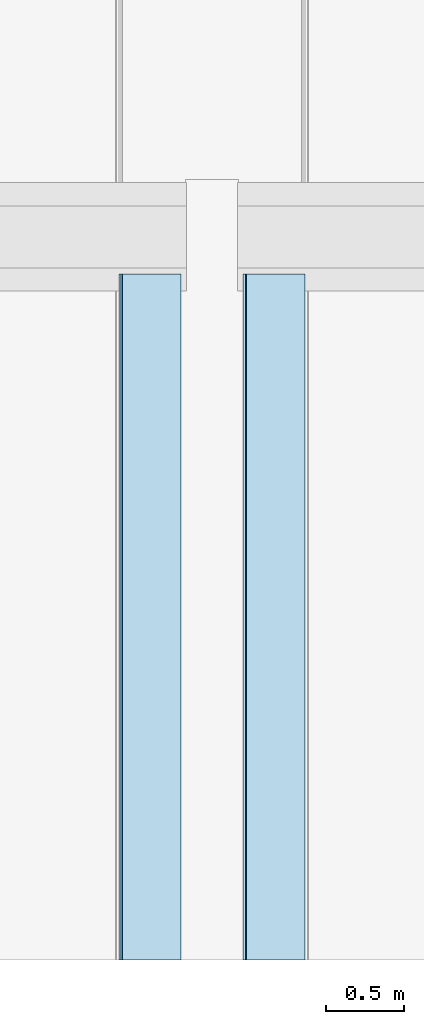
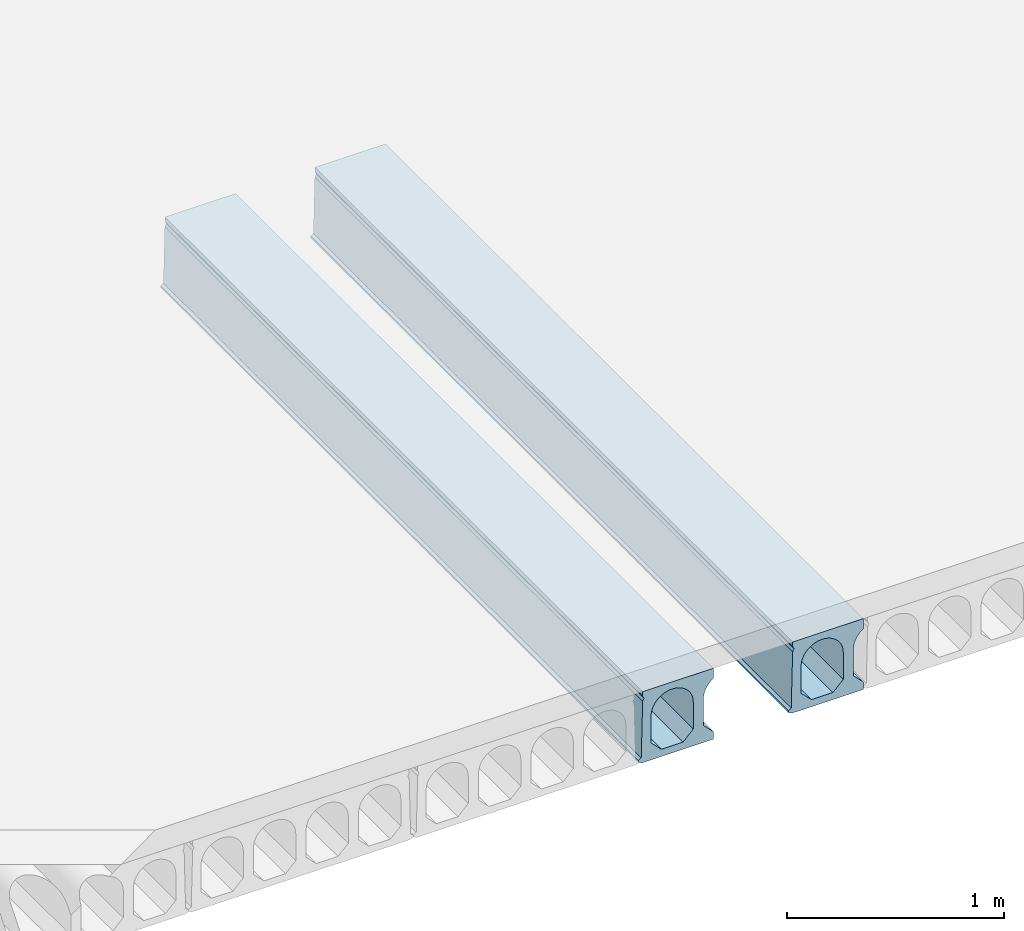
# One storey, part 43 of 98: 2 slabs.
"""IFC2X3 building model written with IfcOpenShell, lengths in millimetres."""

from ifc_helpers import new_model, entity, si_unit, converted_unit, derived_unit, direction, frame, origin_with_axes, place, context, subcontext, project, spatial, faceted_brep, type_object, element, save


model = new_model("IFC2X3")

# Units and contexts
model_context = context("Model", 3, precision=0.01, world=frame((0.0, 4.29681676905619e-09, 0.0)), true_north=direction((4.01073788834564e-13, 1.0)))
plan_context = context("Plan", 3, precision=0.01, world=frame((0.0, 4.29681676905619e-09, 0.0)), true_north=direction((4.01073788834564e-13, 1.0)))
body_context = subcontext(model_context, "Body", "Model", "MODEL_VIEW")
ifc_project = project(units=[converted_unit("PLANEANGLEUNIT", "DEGREE", entity("IfcPositiveLengthMeasure", 0.0174532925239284), si_unit("PLANEANGLEUNIT", "RADIAN"), dimensions=[0, 0, 0, 0, 0, 0, 0]), si_unit("AREAUNIT", "SQUARE_METRE"), si_unit("LENGTHUNIT", "METRE", prefix="MILLI"), si_unit("MASSUNIT", "GRAM", prefix="KILO"), si_unit("POWERUNIT", "WATT"), si_unit("PRESSUREUNIT", "PASCAL"), si_unit("FORCEUNIT", "NEWTON", prefix="KILO"), si_unit("ELECTRICCURRENTUNIT", "AMPERE"), si_unit("THERMODYNAMICTEMPERATUREUNIT", "DEGREE_CELSIUS"), si_unit("TIMEUNIT", "SECOND"), si_unit("VOLUMEUNIT", "CUBIC_METRE"), derived_unit("LINEARVELOCITYUNIT", [(si_unit("LENGTHUNIT", "METRE"), 1), (si_unit("TIMEUNIT", "SECOND"), -1)]), derived_unit("VOLUMETRICFLOWRATEUNIT", [(si_unit("VOLUMEUNIT", "CUBIC_METRE"), 1), (si_unit("TIMEUNIT", "SECOND"), -1)]), derived_unit("THERMALTRANSMITTANCEUNIT", [(si_unit("POWERUNIT", "WATT"), 1), (si_unit("THERMODYNAMICTEMPERATUREUNIT", "KELVIN"), -1), (si_unit("AREAUNIT", "SQUARE_METRE"), -1)])], contexts=[model_context, plan_context])

# Site, building, storey
site_placement = place(None, frame((0.0, -4.29681676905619e-09, 0.0), z_axis=(0.0, 0.0, 1.0), x_axis=(1.0, 0.0, 0.0)))
site = spatial("IfcSite", under=ifc_project, at=site_placement, Name="Gardermoen", CompositionType="ELEMENT")
building_placement = place(site_placement, frame((0.0, 4.29681676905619e-09, 0.0), z_axis=(0.0, 0.0, 1.0), x_axis=(1.0, 0.0, 0.0)))
building = spatial("IfcBuilding", under=site, at=building_placement, Name="TS", CompositionType="ELEMENT")
storey_placement = place(building_placement, origin_with_axes())
storey = spatial("IfcBuildingStorey", under=building, at=storey_placement, Name="D", CompositionType="ELEMENT", Elevation=0.0)

# Slabs
slab_type = type_object("IfcSlabType", Name="HD400", PredefinedType="NOTDEFINED")
slab_1_placement = place(storey_placement, frame((520799.999766, 396739.995625, 203600.0), z_axis=(0.0, 0.0, 1.0), x_axis=(0.0, 1.0, 0.0)))
element("IfcSlab", 1, at=slab_1_placement, inside=storey, type_object=slab_type, Name="HULLDEKKE", ObjectType="HD400", PredefinedType="FLOOR", context=body_context, shape_type="Brep", body=[
    faceted_brep([(4105.68103395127, 201.531667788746, 141.681228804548), (4105.68103395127, 200.001300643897, 142.59312968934), (8520.0, 200.001300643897, 142.59312968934), (8520.0, 201.531667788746, 141.681228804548), (4105.68103395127, 209.098930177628, 136.278307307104), (8520.0, 209.098930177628, 136.278307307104), (4105.68103395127, 216.194176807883, 130.268939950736), (8520.0, 216.194176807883, 130.268939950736), (4105.68103395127, 222.768939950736, 123.694176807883), (8520.0, 222.768939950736, 123.694176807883), (4105.68103395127, 228.778307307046, 116.598930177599), (8520.0, 228.778307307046, 116.598930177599), (4105.68103395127, 234.181228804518, 109.031667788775), (8520.0, 234.181228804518, 109.031667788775), (4105.68103395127, 238.940797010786, 101.044081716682), (8520.0, 238.940797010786, 101.044081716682), (4105.68103395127, 243.024499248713, 92.6907352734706), (8520.0, 243.024499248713, 92.6907352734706), (4105.68103395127, 246.404439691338, 84.028690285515), (8520.0, 246.404439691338, 84.028690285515), (4105.68103395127, 249.057529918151, 75.1171173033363), (8520.0, 249.057529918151, 75.1171173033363), (4105.68103395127, 250.965646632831, 66.0168914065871), (8520.0, 250.965646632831, 66.0168914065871), (4105.68103395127, 252.115755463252, 56.7901763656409), (8520.0, 252.115755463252, 56.7901763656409), (4105.68103395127, 252.5, 47.5), (8520.0, 252.5, 47.5), (4105.68103395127, 252.5, -105.0), (8520.0, 252.5, -105.0), (4105.68103395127, 200.001300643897, -157.498699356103), (8520.0, 200.001300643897, -157.498699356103), (4105.68103395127, 200.001300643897, -200.0), (8520.0, 200.001300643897, -200.0), (4105.68103395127, 583.380004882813, -200.0), (8520.0, 583.380004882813, -200.0), (4105.68103395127, 600.0, -190.0), (8520.0, 600.0, -190.0), (4105.68103395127, 600.0, -180.0), (8520.0, 600.0, -180.0), (4105.68103395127, 585.0, -170.0), (8520.0, 585.0, -170.0), (4105.68103395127, 577.5, 145.0), (8520.0, 577.5, 145.0), (4105.68103395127, 570.0, 160.0), (8520.0, 570.0, 160.0), (4105.68103395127, 577.5, 175.0), (8520.0, 577.5, 175.0), (4105.68103395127, 577.5, 200.0), (8520.0, 577.5, 200.0), (4105.68103395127, 307.5, -105.0), (4105.68103395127, 362.5, -160.0), (8520.0, 362.5, -160.0), (8520.0, 307.5, -105.0), (4105.68103395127, 307.5, 47.5), (8520.0, 307.5, 47.5), (4105.68103395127, 307.884244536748, 56.7901763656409), (8520.0, 307.884244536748, 56.7901763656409), (4105.68103395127, 309.034353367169, 66.0168914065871), (8520.0, 309.034353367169, 66.0168914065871), (4105.68103395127, 310.942470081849, 75.1171173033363), (8520.0, 310.942470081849, 75.1171173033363), (4105.68103395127, 313.595560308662, 84.028690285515), (8520.0, 313.595560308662, 84.028690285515), (4105.68103395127, 316.975500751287, 92.6907352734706), (8520.0, 316.975500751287, 92.6907352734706), (4105.68103395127, 321.059202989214, 101.044081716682), (8520.0, 321.059202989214, 101.044081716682), (4105.68103395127, 325.818771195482, 109.031667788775), (8520.0, 325.818771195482, 109.031667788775), (4105.68103395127, 331.221692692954, 116.598930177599), (8520.0, 331.221692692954, 116.598930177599), (4105.68103395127, 337.231060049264, 123.694176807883), (8520.0, 337.231060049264, 123.694176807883), (4105.68103395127, 343.805823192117, 130.268939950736), (8520.0, 343.805823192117, 130.268939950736), (4105.68103395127, 350.901069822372, 136.278307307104), (8520.0, 350.901069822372, 136.278307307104), (4105.68103395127, 358.468332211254, 141.681228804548), (8520.0, 358.468332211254, 141.681228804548), (4105.68103395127, 366.455918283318, 146.440797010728), (8520.0, 366.455918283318, 146.440797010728), (4105.68103395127, 374.809264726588, 150.524499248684), (8520.0, 374.809264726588, 150.524499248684), (4105.68103395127, 383.471309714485, 153.904439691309), (8520.0, 383.471309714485, 153.904439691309), (4105.68103395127, 392.382882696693, 156.55752991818), (8520.0, 392.382882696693, 156.55752991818), (4105.68103395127, 401.483108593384, 158.465646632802), (8520.0, 401.483108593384, 158.465646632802), (4105.68103395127, 410.709823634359, 159.615755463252), (8520.0, 410.709823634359, 159.615755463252), (4105.68103395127, 420.0, 160.0), (8520.0, 420.0, 160.0), (4105.68103395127, 429.290176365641, 159.615755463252), (8520.0, 429.290176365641, 159.615755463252), (4105.68103395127, 438.516891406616, 158.465646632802), (8520.0, 438.516891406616, 158.465646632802), (4105.68103395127, 447.617117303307, 156.55752991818), (8520.0, 447.617117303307, 156.55752991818), (4105.68103395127, 456.528690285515, 153.904439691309), (8520.0, 456.528690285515, 153.904439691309), (4105.68103395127, 465.190735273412, 150.524499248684), (8520.0, 465.190735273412, 150.524499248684), (4105.68103395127, 473.544081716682, 146.440797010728), (8520.0, 473.544081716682, 146.440797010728), (4105.68103395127, 481.531667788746, 141.681228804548), (8520.0, 481.531667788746, 141.681228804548), (4105.68103395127, 489.098930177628, 136.278307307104), (8520.0, 489.098930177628, 136.278307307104), (4105.68103395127, 496.194176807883, 130.268939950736), (8520.0, 496.194176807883, 130.268939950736), (4105.68103395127, 502.768939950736, 123.694176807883), (8520.0, 502.768939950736, 123.694176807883), (4105.68103395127, 508.778307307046, 116.598930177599), (8520.0, 508.778307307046, 116.598930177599), (4105.68103395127, 514.181228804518, 109.031667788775), (8520.0, 514.181228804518, 109.031667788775), (4105.68103395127, 518.940797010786, 101.044081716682), (8520.0, 518.940797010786, 101.044081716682), (4105.68103395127, 523.024499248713, 92.6907352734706), (8520.0, 523.024499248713, 92.6907352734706), (4105.68103395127, 526.404439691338, 84.028690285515), (8520.0, 526.404439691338, 84.028690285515), (4105.68103395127, 529.057529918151, 75.1171173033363), (8520.0, 529.057529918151, 75.1171173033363), (4105.68103395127, 530.965646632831, 66.0168914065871), (8520.0, 530.965646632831, 66.0168914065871), (4105.68103395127, 532.115755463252, 56.7901763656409), (8520.0, 532.115755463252, 56.7901763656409), (4105.68103395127, 532.5, 47.5), (8520.0, 532.5, 47.5), (4105.68103395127, 532.5, -105.0), (8520.0, 532.5, -105.0), (4105.68103395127, 477.5, -160.0), (8520.0, 477.5, -160.0), (8520.0, 200.001300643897, 200.0), (4105.68103395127, 200.001300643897, 200.0)], [[[0, 1, 2, 3]], [[4, 0, 3, 5]], [[6, 4, 5, 7]], [[8, 6, 7, 9]], [[10, 8, 9, 11]], [[12, 10, 11, 13]], [[14, 12, 13, 15]], [[16, 14, 15, 17]], [[18, 16, 17, 19]], [[20, 18, 19, 21]], [[22, 20, 21, 23]], [[24, 22, 23, 25]], [[26, 24, 25, 27]], [[28, 26, 27, 29]], [[30, 28, 29, 31]], [[32, 30, 31, 33]], [[34, 32, 33, 35]], [[36, 34, 35, 37]], [[38, 36, 37, 39]], [[40, 38, 39, 41]], [[42, 40, 41, 43]], [[44, 42, 43, 45]], [[46, 44, 45, 47]], [[48, 46, 47, 49]], [[50, 51, 52, 53]], [[54, 50, 53, 55]], [[56, 54, 55, 57]], [[58, 56, 57, 59]], [[60, 58, 59, 61]], [[62, 60, 61, 63]], [[64, 62, 63, 65]], [[66, 64, 65, 67]], [[68, 66, 67, 69]], [[70, 68, 69, 71]], [[72, 70, 71, 73]], [[74, 72, 73, 75]], [[76, 74, 75, 77]], [[78, 76, 77, 79]], [[80, 78, 79, 81]], [[82, 80, 81, 83]], [[84, 82, 83, 85]], [[86, 84, 85, 87]], [[88, 86, 87, 89]], [[90, 88, 89, 91]], [[92, 90, 91, 93]], [[94, 92, 93, 95]], [[96, 94, 95, 97]], [[98, 96, 97, 99]], [[100, 98, 99, 101]], [[102, 100, 101, 103]], [[104, 102, 103, 105]], [[106, 104, 105, 107]], [[108, 106, 107, 109]], [[110, 108, 109, 111]], [[112, 110, 111, 113]], [[114, 112, 113, 115]], [[116, 114, 115, 117]], [[118, 116, 117, 119]], [[120, 118, 119, 121]], [[122, 120, 121, 123]], [[124, 122, 123, 125]], [[126, 124, 125, 127]], [[128, 126, 127, 129]], [[130, 128, 129, 131]], [[132, 130, 131, 133]], [[134, 132, 133, 135]], [[2, 136, 49, 47, 45, 43, 41, 39, 37, 35, 33, 31, 29, 27, 25, 23, 21, 19, 17, 15, 13, 11, 9, 7, 5, 3], [52, 135, 133, 131, 129, 127, 125, 123, 121, 119, 117, 115, 113, 111, 109, 107, 105, 103, 101, 99, 97, 95, 93, 91, 89, 87, 85, 83, 81, 79, 77, 75, 73, 71, 69, 67, 65, 63, 61, 59, 57, 55, 53]], [[51, 134, 135, 52]], [[137, 48, 49, 136]], [[1, 137, 136, 2]], [[4, 6, 8, 10, 12, 14, 16, 18, 20, 22, 24, 26, 28, 30, 32, 34, 36, 38, 40, 42, 44, 46, 48, 137, 1, 0], [54, 56, 58, 60, 62, 64, 66, 68, 70, 72, 74, 76, 78, 80, 82, 84, 86, 88, 90, 92, 94, 96, 98, 100, 102, 104, 106, 108, 110, 112, 114, 116, 118, 120, 122, 124, 126, 128, 130, 132, 134, 51, 50]]], orient=[[False], [False], [False], [False], [False], [False], [False], [False], [False], [False], [False], [False], [False], [False], [False], [False], [False], [False], [False], [False], [False], [False], [False], [False], [False], [False], [False], [False], [False], [False], [False], [False], [False], [False], [False], [False], [False], [False], [False], [False], [False], [False], [False], [False], [False], [False], [False], [False], [False], [False], [False], [False], [False], [False], [False], [False], [False], [False], [False], [False], [False], [False], [False], [False], [False], [False], [False, False], [False], [False], [False], [False, False]]),
])
slab_2_placement = place(storey_placement, frame((519999.999766, 396739.995625, 203600.0), z_axis=(0.0, 0.0, 1.0), x_axis=(0.0, 1.0, 0.0)))
element("IfcSlab", 2, at=slab_2_placement, inside=storey, type_object=slab_type, Name="HULLDEKKE", ObjectType="HD400", PredefinedType="FLOOR", context=body_context, shape_type="Brep", body=[
    faceted_brep([(4105.68103395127, 201.531667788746, 141.681228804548), (4105.68103395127, 200.001300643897, 142.59312968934), (8520.0, 200.001300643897, 142.59312968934), (8520.0, 201.531667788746, 141.681228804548), (4105.68103395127, 209.098930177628, 136.278307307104), (8520.0, 209.098930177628, 136.278307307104), (4105.68103395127, 216.194176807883, 130.268939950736), (8520.0, 216.194176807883, 130.268939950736), (4105.68103395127, 222.768939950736, 123.694176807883), (8520.0, 222.768939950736, 123.694176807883), (4105.68103395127, 228.778307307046, 116.598930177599), (8520.0, 228.778307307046, 116.598930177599), (4105.68103395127, 234.181228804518, 109.031667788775), (8520.0, 234.181228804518, 109.031667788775), (4105.68103395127, 238.940797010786, 101.044081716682), (8520.0, 238.940797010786, 101.044081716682), (4105.68103395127, 243.024499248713, 92.6907352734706), (8520.0, 243.024499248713, 92.6907352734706), (4105.68103395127, 246.404439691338, 84.028690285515), (8520.0, 246.404439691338, 84.028690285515), (4105.68103395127, 249.057529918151, 75.1171173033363), (8520.0, 249.057529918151, 75.1171173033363), (4105.68103395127, 250.965646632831, 66.0168914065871), (8520.0, 250.965646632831, 66.0168914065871), (4105.68103395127, 252.115755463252, 56.7901763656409), (8520.0, 252.115755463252, 56.7901763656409), (4105.68103395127, 252.5, 47.5), (8520.0, 252.5, 47.5), (4105.68103395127, 252.5, -105.0), (8520.0, 252.5, -105.0), (4105.68103395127, 200.001300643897, -157.498699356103), (8520.0, 200.001300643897, -157.498699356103), (4105.68103395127, 200.001300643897, -200.0), (8520.0, 200.001300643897, -200.0), (4105.68103395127, 583.380004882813, -200.0), (8520.0, 583.380004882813, -200.0), (4105.68103395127, 600.0, -190.0), (8520.0, 600.0, -190.0), (4105.68103395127, 600.0, -180.0), (8520.0, 600.0, -180.0), (4105.68103395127, 585.0, -170.0), (8520.0, 585.0, -170.0), (4105.68103395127, 577.5, 145.0), (8520.0, 577.5, 145.0), (4105.68103395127, 570.0, 160.0), (8520.0, 570.0, 160.0), (4105.68103395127, 577.5, 175.0), (8520.0, 577.5, 175.0), (4105.68103395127, 577.5, 200.0), (8520.0, 577.5, 200.0), (4105.68103395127, 307.5, -105.0), (4105.68103395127, 362.5, -160.0), (8520.0, 362.5, -160.0), (8520.0, 307.5, -105.0), (4105.68103395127, 307.5, 47.5), (8520.0, 307.5, 47.5), (4105.68103395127, 307.884244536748, 56.7901763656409), (8520.0, 307.884244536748, 56.7901763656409), (4105.68103395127, 309.034353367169, 66.0168914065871), (8520.0, 309.034353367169, 66.0168914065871), (4105.68103395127, 310.942470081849, 75.1171173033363), (8520.0, 310.942470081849, 75.1171173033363), (4105.68103395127, 313.595560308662, 84.028690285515), (8520.0, 313.595560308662, 84.028690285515), (4105.68103395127, 316.975500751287, 92.6907352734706), (8520.0, 316.975500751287, 92.6907352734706), (4105.68103395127, 321.059202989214, 101.044081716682), (8520.0, 321.059202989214, 101.044081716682), (4105.68103395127, 325.818771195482, 109.031667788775), (8520.0, 325.818771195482, 109.031667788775), (4105.68103395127, 331.221692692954, 116.598930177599), (8520.0, 331.221692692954, 116.598930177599), (4105.68103395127, 337.231060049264, 123.694176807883), (8520.0, 337.231060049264, 123.694176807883), (4105.68103395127, 343.805823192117, 130.268939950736), (8520.0, 343.805823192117, 130.268939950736), (4105.68103395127, 350.901069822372, 136.278307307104), (8520.0, 350.901069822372, 136.278307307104), (4105.68103395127, 358.468332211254, 141.681228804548), (8520.0, 358.468332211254, 141.681228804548), (4105.68103395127, 366.455918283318, 146.440797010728), (8520.0, 366.455918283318, 146.440797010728), (4105.68103395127, 374.809264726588, 150.524499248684), (8520.0, 374.809264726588, 150.524499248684), (4105.68103395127, 383.471309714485, 153.904439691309), (8520.0, 383.471309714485, 153.904439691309), (4105.68103395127, 392.382882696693, 156.55752991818), (8520.0, 392.382882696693, 156.55752991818), (4105.68103395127, 401.483108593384, 158.465646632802), (8520.0, 401.483108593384, 158.465646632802), (4105.68103395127, 410.709823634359, 159.615755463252), (8520.0, 410.709823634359, 159.615755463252), (4105.68103395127, 420.0, 160.0), (8520.0, 420.0, 160.0), (4105.68103395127, 429.290176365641, 159.615755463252), (8520.0, 429.290176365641, 159.615755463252), (4105.68103395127, 438.516891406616, 158.465646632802), (8520.0, 438.516891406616, 158.465646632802), (4105.68103395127, 447.617117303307, 156.55752991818), (8520.0, 447.617117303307, 156.55752991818), (4105.68103395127, 456.528690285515, 153.904439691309), (8520.0, 456.528690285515, 153.904439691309), (4105.68103395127, 465.190735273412, 150.524499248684), (8520.0, 465.190735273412, 150.524499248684), (4105.68103395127, 473.544081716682, 146.440797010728), (8520.0, 473.544081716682, 146.440797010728), (4105.68103395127, 481.531667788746, 141.681228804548), (8520.0, 481.531667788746, 141.681228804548), (4105.68103395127, 489.098930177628, 136.278307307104), (8520.0, 489.098930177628, 136.278307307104), (4105.68103395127, 496.194176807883, 130.268939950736), (8520.0, 496.194176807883, 130.268939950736), (4105.68103395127, 502.768939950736, 123.694176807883), (8520.0, 502.768939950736, 123.694176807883), (4105.68103395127, 508.778307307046, 116.598930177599), (8520.0, 508.778307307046, 116.598930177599), (4105.68103395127, 514.181228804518, 109.031667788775), (8520.0, 514.181228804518, 109.031667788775), (4105.68103395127, 518.940797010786, 101.044081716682), (8520.0, 518.940797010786, 101.044081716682), (4105.68103395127, 523.024499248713, 92.6907352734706), (8520.0, 523.024499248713, 92.6907352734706), (4105.68103395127, 526.404439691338, 84.028690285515), (8520.0, 526.404439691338, 84.028690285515), (4105.68103395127, 529.057529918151, 75.1171173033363), (8520.0, 529.057529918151, 75.1171173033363), (4105.68103395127, 530.965646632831, 66.0168914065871), (8520.0, 530.965646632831, 66.0168914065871), (4105.68103395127, 532.115755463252, 56.7901763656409), (8520.0, 532.115755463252, 56.7901763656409), (4105.68103395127, 532.5, 47.5), (8520.0, 532.5, 47.5), (4105.68103395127, 532.5, -105.0), (8520.0, 532.5, -105.0), (4105.68103395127, 477.5, -160.0), (8520.0, 477.5, -160.0), (8520.0, 200.001300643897, 200.0), (4105.68103395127, 200.001300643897, 200.0)], [[[0, 1, 2, 3]], [[4, 0, 3, 5]], [[6, 4, 5, 7]], [[8, 6, 7, 9]], [[10, 8, 9, 11]], [[12, 10, 11, 13]], [[14, 12, 13, 15]], [[16, 14, 15, 17]], [[18, 16, 17, 19]], [[20, 18, 19, 21]], [[22, 20, 21, 23]], [[24, 22, 23, 25]], [[26, 24, 25, 27]], [[28, 26, 27, 29]], [[30, 28, 29, 31]], [[32, 30, 31, 33]], [[34, 32, 33, 35]], [[36, 34, 35, 37]], [[38, 36, 37, 39]], [[40, 38, 39, 41]], [[42, 40, 41, 43]], [[44, 42, 43, 45]], [[46, 44, 45, 47]], [[48, 46, 47, 49]], [[50, 51, 52, 53]], [[54, 50, 53, 55]], [[56, 54, 55, 57]], [[58, 56, 57, 59]], [[60, 58, 59, 61]], [[62, 60, 61, 63]], [[64, 62, 63, 65]], [[66, 64, 65, 67]], [[68, 66, 67, 69]], [[70, 68, 69, 71]], [[72, 70, 71, 73]], [[74, 72, 73, 75]], [[76, 74, 75, 77]], [[78, 76, 77, 79]], [[80, 78, 79, 81]], [[82, 80, 81, 83]], [[84, 82, 83, 85]], [[86, 84, 85, 87]], [[88, 86, 87, 89]], [[90, 88, 89, 91]], [[92, 90, 91, 93]], [[94, 92, 93, 95]], [[96, 94, 95, 97]], [[98, 96, 97, 99]], [[100, 98, 99, 101]], [[102, 100, 101, 103]], [[104, 102, 103, 105]], [[106, 104, 105, 107]], [[108, 106, 107, 109]], [[110, 108, 109, 111]], [[112, 110, 111, 113]], [[114, 112, 113, 115]], [[116, 114, 115, 117]], [[118, 116, 117, 119]], [[120, 118, 119, 121]], [[122, 120, 121, 123]], [[124, 122, 123, 125]], [[126, 124, 125, 127]], [[128, 126, 127, 129]], [[130, 128, 129, 131]], [[132, 130, 131, 133]], [[134, 132, 133, 135]], [[2, 136, 49, 47, 45, 43, 41, 39, 37, 35, 33, 31, 29, 27, 25, 23, 21, 19, 17, 15, 13, 11, 9, 7, 5, 3], [52, 135, 133, 131, 129, 127, 125, 123, 121, 119, 117, 115, 113, 111, 109, 107, 105, 103, 101, 99, 97, 95, 93, 91, 89, 87, 85, 83, 81, 79, 77, 75, 73, 71, 69, 67, 65, 63, 61, 59, 57, 55, 53]], [[51, 134, 135, 52]], [[137, 48, 49, 136]], [[1, 137, 136, 2]], [[4, 6, 8, 10, 12, 14, 16, 18, 20, 22, 24, 26, 28, 30, 32, 34, 36, 38, 40, 42, 44, 46, 48, 137, 1, 0], [54, 56, 58, 60, 62, 64, 66, 68, 70, 72, 74, 76, 78, 80, 82, 84, 86, 88, 90, 92, 94, 96, 98, 100, 102, 104, 106, 108, 110, 112, 114, 116, 118, 120, 122, 124, 126, 128, 130, 132, 134, 51, 50]]], orient=[[False], [False], [False], [False], [False], [False], [False], [False], [False], [False], [False], [False], [False], [False], [False], [False], [False], [False], [False], [False], [False], [False], [False], [False], [False], [False], [False], [False], [False], [False], [False], [False], [False], [False], [False], [False], [False], [False], [False], [False], [False], [False], [False], [False], [False], [False], [False], [False], [False], [False], [False], [False], [False], [False], [False], [False], [False], [False], [False], [False], [False], [False], [False], [False], [False], [False], [False, False], [False], [False], [False], [False, False]]),
])

save(model, "model.ifc")
